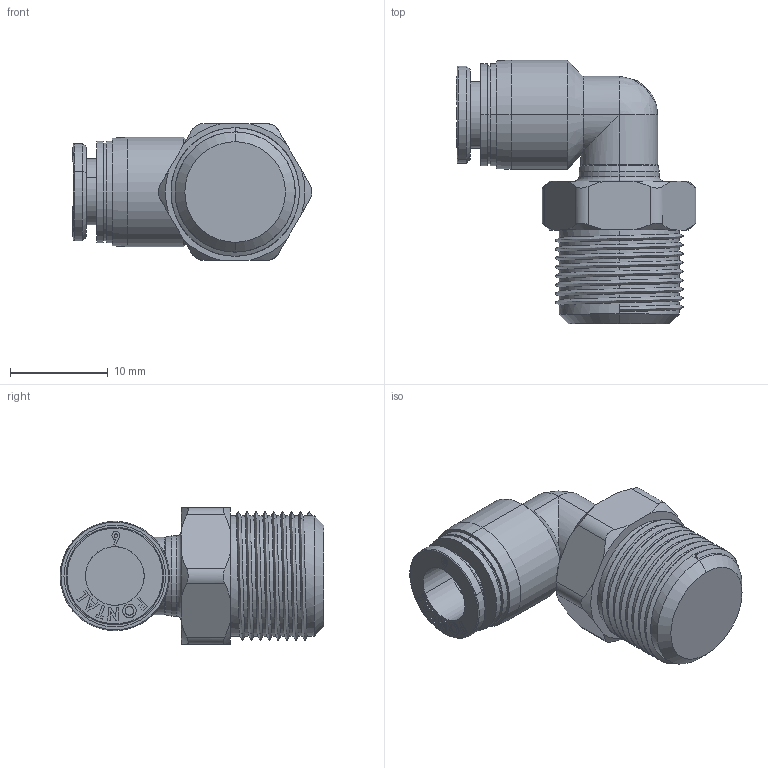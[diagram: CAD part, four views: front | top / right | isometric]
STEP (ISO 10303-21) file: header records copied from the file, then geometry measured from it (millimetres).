
FILE_DESCRIPTION (( 'STEP AP203' ), '1' );
FILE_NAME ('FPL6-02.STEP', '2016-01-14T21:05:12', ( '' ), ( '' ), 'SwSTEP 2.0', 'SolidWorks 2014', '' );
FILE_SCHEMA (( 'CONFIG_CONTROL_DESIGN' ));
Length unit declared in the file: millimetre
Products named in the file (4): FPL6-02; FPL6-02-B; FPL6-01-A; FPC6-M5-A
Assembly tree (3 placements, depth 2):
  FPL6-02
    FPL6-01-A
    FPC6-M5-A
    FPL6-02-B
Bounding box: 24.53 x 27 x 14 mm (x, y, z)
Volume: 3215 mm3; surface area: 2329.6 mm2
Topology: 3 solids, 3 shells, 177 faces, 445 edges, 290 vertices
Faces by surface type: plane 81, cylinder 49, cone 24, bspline 19, torus 4
Entity records: 9783 total; most frequent: CARTESIAN_POINT 5372, ORIENTED_EDGE 886, DIRECTION 740, EDGE_CURVE 443, VERTEX_POINT 290, AXIS2_PLACEMENT_3D 248, LINE 244, VECTOR 244
